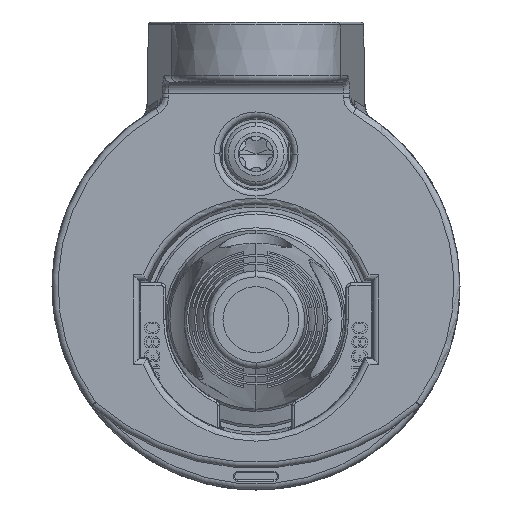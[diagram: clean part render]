
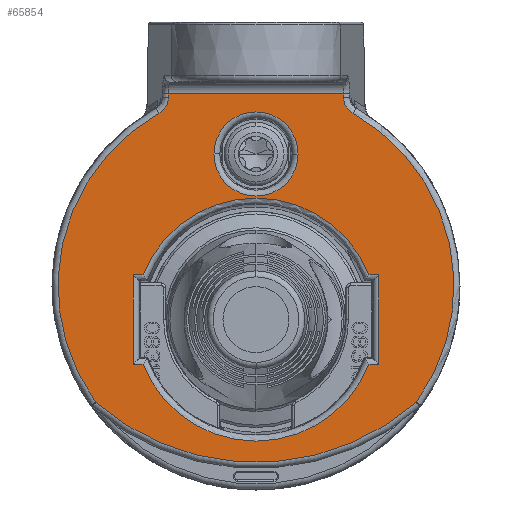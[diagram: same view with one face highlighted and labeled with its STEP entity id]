
A CAD part, left-side view. The second image highlights one B-rep face of the part: STEP entity #65854.
In plain terms, the highlighted planar face has unit normal (-1, 0, 0).
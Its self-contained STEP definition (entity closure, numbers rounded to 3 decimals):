
#14521=DIRECTION('',(0.,0.,1.));
#14522=VECTOR('',#14521,7.452);
#14523=CARTESIAN_POINT('',(-75.65,10.226,-6.526));
#14524=LINE('',#14523,#14522);
#14525=DIRECTION('',(0.,1.,0.));
#14526=VECTOR('',#14525,0.81);
#14527=CARTESIAN_POINT('',(-75.65,9.416,-6.526));
#14528=LINE('',#14527,#14526);
#14529=CARTESIAN_POINT('',(-75.65,0.,-2.8));
#14530=DIRECTION('',(1.,0.,0.));
#14531=DIRECTION('',(0.,-0.93,-0.368));
#14532=AXIS2_PLACEMENT_3D('',#14529,#14530,#14531);
#14534=DIRECTION('',(0.,1.,0.));
#14535=VECTOR('',#14534,0.81);
#14536=CARTESIAN_POINT('',(-75.65,-10.226,-6.526));
#14537=LINE('',#14536,#14535);
#14538=DIRECTION('',(0.,0.,-1.));
#14539=VECTOR('',#14538,7.452);
#14540=CARTESIAN_POINT('',(-75.65,-10.226,0.926));
#14541=LINE('',#14540,#14539);
#14542=DIRECTION('',(0.,-1.,0.));
#14543=VECTOR('',#14542,0.81);
#14544=CARTESIAN_POINT('',(-75.65,-9.416,0.926));
#14545=LINE('',#14544,#14543);
#14546=CARTESIAN_POINT('',(-75.65,0.,-2.8));
#14547=DIRECTION('',(-1.,0.,0.));
#14548=DIRECTION('',(0.,-0.93,0.368));
#14549=AXIS2_PLACEMENT_3D('',#14546,#14547,#14548);
#14551=DIRECTION('',(0.,-1.,0.));
#14552=VECTOR('',#14551,0.81);
#14553=CARTESIAN_POINT('',(-75.65,10.226,0.926));
#14554=LINE('',#14553,#14552);
#14555=CARTESIAN_POINT('',(-75.65,0.,0.));
#14556=DIRECTION('',(1.,0.,0.));
#14557=DIRECTION('',(0.,0.81,-0.587));
#14558=AXIS2_PLACEMENT_3D('',#14555,#14556,#14557);
#14560=CARTESIAN_POINT('',(-75.65,8.085,
14.383));
#14561=CARTESIAN_POINT('',(-75.65,8.009,
14.426));
#14562=CARTESIAN_POINT('',(-75.65,7.866,
14.524));
#14563=CARTESIAN_POINT('',(-75.65,7.675,
14.709));
#14564=CARTESIAN_POINT('',(-75.65,7.521,
14.922));
#14565=CARTESIAN_POINT('',(-75.65,7.406,
15.159));
#14566=CARTESIAN_POINT('',(-75.65,7.334,
15.413));
#14567=CARTESIAN_POINT('',(-75.65,7.316,
15.584));
#14568=CARTESIAN_POINT('',(-75.65,7.314,
15.671));
#14570=DIRECTION('',(0.,-0.018,1.));
#14571=VECTOR('',#14570,0.329);
#14572=CARTESIAN_POINT('',(-75.65,7.314,
15.671));
#14573=LINE('',#14572,#14571);
#14574=DIRECTION('',(0.,1.,0.));
#14575=VECTOR('',#14574,14.617);
#14576=CARTESIAN_POINT('',(-75.65,-7.309,
16.));
#14577=LINE('',#14576,#14575);
#14578=DIRECTION('',(0.,-0.018,-1.));
#14579=VECTOR('',#14578,0.329);
#14580=CARTESIAN_POINT('',(-75.65,-7.309,
16.));
#14581=LINE('',#14580,#14579);
#14582=CARTESIAN_POINT('',(-75.65,-7.314,
15.671));
#14583=CARTESIAN_POINT('',(-75.65,-7.316,
15.584));
#14584=CARTESIAN_POINT('',(-75.65,-7.334,
15.413));
#14585=CARTESIAN_POINT('',(-75.65,-7.406,
15.159));
#14586=CARTESIAN_POINT('',(-75.65,-7.521,
14.922));
#14587=CARTESIAN_POINT('',(-75.65,-7.675,
14.709));
#14588=CARTESIAN_POINT('',(-75.65,-7.866,
14.524));
#14589=CARTESIAN_POINT('',(-75.65,-8.009,
14.426));
#14590=CARTESIAN_POINT('',(-75.65,-8.085,
14.383));
#14592=CARTESIAN_POINT('',(-75.65,0.,11.));
#14593=DIRECTION('',(1.,0.,0.));
#14594=DIRECTION('',(0.,-1.,0.));
#14595=AXIS2_PLACEMENT_3D('',#14592,#14593,#14594);
#14597=CARTESIAN_POINT('',(-75.65,0.,11.));
#14598=DIRECTION('',(1.,0.,0.));
#14599=DIRECTION('',(0.,1.,0.));
#14600=AXIS2_PLACEMENT_3D('',#14597,#14598,#14599);
#15554=CARTESIAN_POINT('',(-75.65,0.,5.6));
#15555=DIRECTION('',(-1.,0.,0.));
#15556=DIRECTION('',(0.,0.658,-0.753));
#15557=AXIS2_PLACEMENT_3D('',#15554,#15555,#15556);
#16815=CARTESIAN_POINT('',(-75.65,0.,0.));
#16816=DIRECTION('',(-1.,0.,0.));
#16817=DIRECTION('',(0.,-0.81,-0.587));
#16818=AXIS2_PLACEMENT_3D('',#16815,#16816,#16817);
#16838=CARTESIAN_POINT('',(-75.65,7.309,
16.));
#37162=CARTESIAN_POINT('',(-75.65,10.226,-6.526));
#37163=CARTESIAN_POINT('',(-75.65,10.226,0.926));
#37164=VERTEX_POINT('',#37162);
#37165=VERTEX_POINT('',#37163);
#37172=CARTESIAN_POINT('',(-75.65,9.416,-6.526));
#37173=VERTEX_POINT('',#37172);
#37176=CARTESIAN_POINT('',(-75.65,-9.416,-6.526));
#37177=VERTEX_POINT('',#37176);
#37178=CARTESIAN_POINT('',(-75.65,-10.226,-6.526));
#37179=VERTEX_POINT('',#37178);
#37184=CARTESIAN_POINT('',(-75.65,-10.226,0.926));
#37185=VERTEX_POINT('',#37184);
#37188=CARTESIAN_POINT('',(-75.65,-9.416,0.926));
#37189=VERTEX_POINT('',#37188);
#37190=CARTESIAN_POINT('',(-75.65,9.416,0.926));
#37191=VERTEX_POINT('',#37190);
#37221=VERTEX_POINT('',#14582);
#37222=VERTEX_POINT('',#14590);
#37225=CARTESIAN_POINT('',(-75.65,-7.309,
16.));
#37226=VERTEX_POINT('',#37225);
#37242=VERTEX_POINT('',#16838);
#37245=CARTESIAN_POINT('',(-75.65,7.314,
15.671));
#37246=VERTEX_POINT('',#37245);
#37248=VERTEX_POINT('',#14560);
#37251=CARTESIAN_POINT('',(-75.65,13.358,-9.686));
#37252=VERTEX_POINT('',#37251);
#37275=CARTESIAN_POINT('',(-75.65,-13.358,-9.686));
#37276=VERTEX_POINT('',#37275);
#37385=CARTESIAN_POINT('',(-75.65,-3.507,11.));
#37386=CARTESIAN_POINT('',(-75.65,3.507,11.));
#37387=VERTEX_POINT('',#37385);
#37388=VERTEX_POINT('',#37386);
#65808=CARTESIAN_POINT('',(-75.65,0.,0.));
#65809=DIRECTION('',(-1.,0.,0.));
#65810=DIRECTION('',(0.,1.,0.));
#65811=AXIS2_PLACEMENT_3D('',#65808,#65809,#65810);
#65812=PLANE('',#65811);
#65814=ORIENTED_EDGE('',*,*,#65813,.F.);
#65816=ORIENTED_EDGE('',*,*,#65815,.F.);
#65818=ORIENTED_EDGE('',*,*,#65817,.T.);
#65820=ORIENTED_EDGE('',*,*,#65819,.T.);
#65822=ORIENTED_EDGE('',*,*,#65821,.T.);
#65824=ORIENTED_EDGE('',*,*,#65823,.F.);
#65826=ORIENTED_EDGE('',*,*,#65825,.T.);
#65828=ORIENTED_EDGE('',*,*,#65827,.T.);
#65829=EDGE_LOOP('',(#65814,#65816,#65818,#65820,#65822,#65824,#65826,#65828));
#65830=FACE_OUTER_BOUND('',#65829,.F.);
#65832=ORIENTED_EDGE('',*,*,#65831,.F.);
#65834=ORIENTED_EDGE('',*,*,#65833,.F.);
#65836=ORIENTED_EDGE('',*,*,#65835,.F.);
#65838=ORIENTED_EDGE('',*,*,#65837,.F.);
#65840=ORIENTED_EDGE('',*,*,#65839,.F.);
#65842=ORIENTED_EDGE('',*,*,#65841,.F.);
#65844=ORIENTED_EDGE('',*,*,#65843,.T.);
#65846=ORIENTED_EDGE('',*,*,#65845,.F.);
#65847=EDGE_LOOP('',(#65832,#65834,#65836,#65838,#65840,#65842,#65844,#65846));
#65848=FACE_BOUND('',#65847,.F.);
#65849=ORIENTED_EDGE('',*,*,#65798,.F.);
#65851=ORIENTED_EDGE('',*,*,#65850,.F.);
#65852=EDGE_LOOP('',(#65849,#65851));
#65853=FACE_BOUND('',#65852,.F.);
#14533=CIRCLE('',#14532,10.126);
#14550=CIRCLE('',#14549,10.126);
#14559=CIRCLE('',#14558,16.5);
#14569=B_SPLINE_CURVE_WITH_KNOTS('',3,(#14560,#14561,#14562,#14563,#14564,
#14565,#14566,#14567,#14568),.UNSPECIFIED.,.F.,.F.,(4,1,1,1,1,1,4),(0.,
0.167,0.333,0.5,0.667,0.833,
1.),.UNSPECIFIED.);
#14591=B_SPLINE_CURVE_WITH_KNOTS('',3,(#14582,#14583,#14584,#14585,#14586,
#14587,#14588,#14589,#14590),.UNSPECIFIED.,.F.,.F.,(4,1,1,1,1,1,4),(0.,
0.167,0.333,0.5,0.667,0.833,
1.),.UNSPECIFIED.);
#14596=CIRCLE('',#14595,3.507);
#14601=CIRCLE('',#14600,3.507);
#15558=CIRCLE('',#15557,20.3);
#16819=CIRCLE('',#16818,16.5);
#65798=EDGE_CURVE('',#37387,#37388,#14596,.T.);
#65813=EDGE_CURVE('',#37276,#37222,#16819,.T.);
#65815=EDGE_CURVE('',#37252,#37276,#15558,.T.);
#65817=EDGE_CURVE('',#37252,#37248,#14559,.T.);
#65819=EDGE_CURVE('',#37248,#37246,#14569,.T.);
#65821=EDGE_CURVE('',#37246,#37242,#14573,.T.);
#65823=EDGE_CURVE('',#37226,#37242,#14577,.T.);
#65825=EDGE_CURVE('',#37226,#37221,#14581,.T.);
#65827=EDGE_CURVE('',#37221,#37222,#14591,.T.);
#65831=EDGE_CURVE('',#37164,#37165,#14524,.T.);
#65833=EDGE_CURVE('',#37173,#37164,#14528,.T.);
#65835=EDGE_CURVE('',#37177,#37173,#14533,.T.);
#65837=EDGE_CURVE('',#37179,#37177,#14537,.T.);
#65839=EDGE_CURVE('',#37185,#37179,#14541,.T.);
#65841=EDGE_CURVE('',#37189,#37185,#14545,.T.);
#65843=EDGE_CURVE('',#37189,#37191,#14550,.T.);
#65845=EDGE_CURVE('',#37165,#37191,#14554,.T.);
#65850=EDGE_CURVE('',#37388,#37387,#14601,.T.);
#65854=ADVANCED_FACE('',(#65830,#65848,#65853),#65812,.T.);
